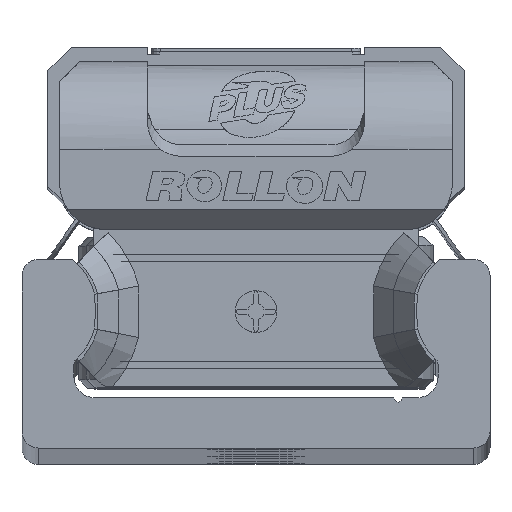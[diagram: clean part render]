
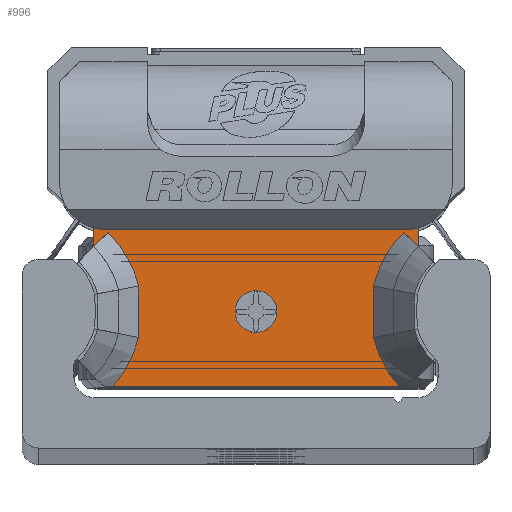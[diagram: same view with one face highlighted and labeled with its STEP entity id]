
A CAD part, top view. The second image highlights one B-rep face of the part: STEP entity #996.
In plain terms, the highlighted planar face has unit normal (0, 0, 1) as drawn and (0, 0, -1) by its records, which use the part's own axes.
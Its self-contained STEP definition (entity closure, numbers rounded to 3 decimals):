
#996 = ADVANCED_FACE( '', ( #2460, #2461 ), #2462, .F. );
#2460 = FACE_BOUND( '', #4641, .T. );
#2461 = FACE_OUTER_BOUND( '', #4642, .T. );
#2462 = PLANE( '', #4643 );
#4641 = EDGE_LOOP( '', ( #7400 ) );
#4642 = EDGE_LOOP( '', ( #7401, #7402, #7403, #7404, #7405, #7406, #7407, #7408, #7409, #7410, #7411, #7412, #7413, #7414 ) );
#4643 = AXIS2_PLACEMENT_3D( '', #7415, #7416, #7417 );
#7400 = ORIENTED_EDGE( '', *, *, #12608, .T. );
#7401 = ORIENTED_EDGE( '', *, *, #12609, .F. );
#7402 = ORIENTED_EDGE( '', *, *, #12610, .T. );
#7403 = ORIENTED_EDGE( '', *, *, #12100, .T. );
#7404 = ORIENTED_EDGE( '', *, *, #12611, .T. );
#7405 = ORIENTED_EDGE( '', *, *, #12612, .T. );
#7406 = ORIENTED_EDGE( '', *, *, #12613, .T. );
#7407 = ORIENTED_EDGE( '', *, *, #12614, .T. );
#7408 = ORIENTED_EDGE( '', *, *, #12615, .T. );
#7409 = ORIENTED_EDGE( '', *, *, #12412, .T. );
#7410 = ORIENTED_EDGE( '', *, *, #12616, .T. );
#7411 = ORIENTED_EDGE( '', *, *, #12617, .T. );
#7412 = ORIENTED_EDGE( '', *, *, #12618, .T. );
#7413 = ORIENTED_EDGE( '', *, *, #12619, .T. );
#7414 = ORIENTED_EDGE( '', *, *, #12620, .T. );
#7415 = CARTESIAN_POINT( '', ( 9.7, 4.89, -10.6 ) );
#7416 = DIRECTION( '', ( 0., 0., 1. ) );
#7417 = DIRECTION( '', ( 1., 0., 0. ) );
#12100 = EDGE_CURVE( '', #14302, #14306, #14308, .T. );
#12412 = EDGE_CURVE( '', #14852, #14830, #14853, .T. );
#12608 = EDGE_CURVE( '', #15187, #15187, #15188, .T. );
#12609 = EDGE_CURVE( '', #15189, #14971, #15190, .T. );
#12610 = EDGE_CURVE( '', #15189, #14302, #15191, .T. );
#12611 = EDGE_CURVE( '', #14306, #15192, #15193, .T. );
#12612 = EDGE_CURVE( '', #15192, #15194, #15195, .T. );
#12613 = EDGE_CURVE( '', #15194, #15196, #15197, .T. );
#12614 = EDGE_CURVE( '', #15196, #15198, #15199, .T. );
#12615 = EDGE_CURVE( '', #15198, #14852, #15200, .T. );
#12616 = EDGE_CURVE( '', #14830, #15201, #15202, .T. );
#12617 = EDGE_CURVE( '', #15201, #15203, #15204, .T. );
#12618 = EDGE_CURVE( '', #15203, #15205, #15206, .T. );
#12619 = EDGE_CURVE( '', #15205, #15207, #15208, .T. );
#12620 = EDGE_CURVE( '', #15207, #14971, #15209, .T. );
#14302 = VERTEX_POINT( '', #17544 );
#14306 = VERTEX_POINT( '', #17550 );
#14308 = LINE( '', #17553, #17554 );
#14830 = VERTEX_POINT( '', #18381 );
#14852 = VERTEX_POINT( '', #18414 );
#14853 = B_SPLINE_CURVE_WITH_KNOTS( '', 2, ( #18415, #18416, #18417 ), .UNSPECIFIED., .F., .F., ( 3, 3 ), ( 0., 1. ), .UNSPECIFIED. );
#14971 = VERTEX_POINT( '', #18598 );
#15187 = VERTEX_POINT( '', #18897 );
#15188 = CIRCLE( '', #18898, 1.25 );
#15189 = VERTEX_POINT( '', #18899 );
#15190 = LINE( '', #18900, #18901 );
#15191 = CIRCLE( '', #18902, 2.8 );
#15192 = VERTEX_POINT( '', #18903 );
#15193 = CIRCLE( '', #18904, 2.8 );
#15194 = VERTEX_POINT( '', #18905 );
#15195 = LINE( '', #18906, #18907 );
#15196 = VERTEX_POINT( '', #18908 );
#15197 = LINE( '', #18909, #18910 );
#15198 = VERTEX_POINT( '', #18911 );
#15199 = B_SPLINE_CURVE_WITH_KNOTS( '', 2, ( #18912, #18913, #18914, #18915, #18916 ), .UNSPECIFIED., .F., .F., ( 3, 2, 3 ), ( 0., 0.5, 1. ), .UNSPECIFIED. );
#15200 = B_SPLINE_CURVE_WITH_KNOTS( '', 2, ( #18917, #18918, #18919 ), .UNSPECIFIED., .F., .F., ( 3, 3 ), ( 0., 1. ), .UNSPECIFIED. );
#15201 = VERTEX_POINT( '', #18920 );
#15202 = LINE( '', #18921, #18922 );
#15203 = VERTEX_POINT( '', #18923 );
#15204 = B_SPLINE_CURVE_WITH_KNOTS( '', 2, ( #18924, #18925, #18926 ), .UNSPECIFIED., .F., .F., ( 3, 3 ), ( 0.1, 1. ), .UNSPECIFIED. );
#15205 = VERTEX_POINT( '', #18927 );
#15206 = B_SPLINE_CURVE_WITH_KNOTS( '', 2, ( #18928, #18929, #18930 ), .UNSPECIFIED., .F., .F., ( 3, 3 ), ( 0., 1. ), .UNSPECIFIED. );
#15207 = VERTEX_POINT( '', #18931 );
#15208 = B_SPLINE_CURVE_WITH_KNOTS( '', 2, ( #18932, #18933, #18934 ), .UNSPECIFIED., .F., .F., ( 3, 3 ), ( 0., 1. ), .UNSPECIFIED. );
#15209 = LINE( '', #18935, #18936 );
#17544 = CARTESIAN_POINT( '', ( -8.95, 4.51, -10.6 ) );
#17550 = CARTESIAN_POINT( '', ( 8.95, 4.51, -10.6 ) );
#17553 = CARTESIAN_POINT( '', ( 9.7, 4.51, -10.6 ) );
#17554 = VECTOR( '', #22083, 1000. );
#18381 = CARTESIAN_POINT( '', ( 8.59, -4.893, -10.6 ) );
#18414 = CARTESIAN_POINT( '', ( 7.031, -1.944, -10.6 ) );
#18415 = CARTESIAN_POINT( '', ( 7.031, -1.944, -10.6 ) );
#18416 = CARTESIAN_POINT( '', ( 7.429, -3.615, -10.6 ) );
#18417 = CARTESIAN_POINT( '', ( 8.588, -4.89, -10.6 ) );
#18598 = CARTESIAN_POINT( '', ( -9.7, 3.494, -10.6 ) );
#18897 = CARTESIAN_POINT( '', ( 1.25, -0.39, -10.6 ) );
#18898 = AXIS2_PLACEMENT_3D( '', #22714, #22715, #22716 );
#18899 = CARTESIAN_POINT( '', ( -9.7, 4.612, -10.6 ) );
#18900 = CARTESIAN_POINT( '', ( -9.7, 4.89, -10.6 ) );
#18901 = VECTOR( '', #22717, 1000. );
#18902 = AXIS2_PLACEMENT_3D( '', #22718, #22719, #22720 );
#18903 = CARTESIAN_POINT( '', ( 9.7, 4.612, -10.6 ) );
#18904 = AXIS2_PLACEMENT_3D( '', #22721, #22722, #22723 );
#18905 = CARTESIAN_POINT( '', ( 9.7, 3.497, -10.6 ) );
#18906 = CARTESIAN_POINT( '', ( 9.7, 4.89, -10.6 ) );
#18907 = VECTOR( '', #22724, 1000. );
#18908 = CARTESIAN_POINT( '', ( 8.853, 4.366, -10.6 ) );
#18909 = CARTESIAN_POINT( '', ( 9.7, 3.501, -10.6 ) );
#18910 = VECTOR( '', #22725, 1000. );
#18911 = CARTESIAN_POINT( '', ( 7.031, 1.144, -10.6 ) );
#18912 = CARTESIAN_POINT( '', ( 8.853, 4.366, -10.6 ) );
#18913 = CARTESIAN_POINT( '', ( 8.182, 3.708, -10.6 ) );
#18914 = CARTESIAN_POINT( '', ( 7.715, 2.883, -10.6 ) );
#18915 = CARTESIAN_POINT( '', ( 7.249, 2.058, -10.6 ) );
#18916 = CARTESIAN_POINT( '', ( 7.031, 1.144, -10.6 ) );
#18917 = CARTESIAN_POINT( '', ( 7.031, 1.144, -10.6 ) );
#18918 = CARTESIAN_POINT( '', ( 6.929, -0.4, -10.6 ) );
#18919 = CARTESIAN_POINT( '', ( 7.031, -1.944, -10.6 ) );
#18920 = CARTESIAN_POINT( '', ( -8.59, -4.893, -10.6 ) );
#18921 = CARTESIAN_POINT( '', ( 9.7, -4.89, -10.6 ) );
#18922 = VECTOR( '', #22726, 1000. );
#18923 = CARTESIAN_POINT( '', ( -7.031, -1.944, -10.6 ) );
#18924 = CARTESIAN_POINT( '', ( -8.587, -4.89, -10.6 ) );
#18925 = CARTESIAN_POINT( '', ( -7.432, -3.63, -10.6 ) );
#18926 = CARTESIAN_POINT( '', ( -7.031, -1.944, -10.6 ) );
#18927 = CARTESIAN_POINT( '', ( -7.031, 1.144, -10.6 ) );
#18928 = CARTESIAN_POINT( '', ( -7.031, -1.944, -10.6 ) );
#18929 = CARTESIAN_POINT( '', ( -6.929, -0.4, -10.6 ) );
#18930 = CARTESIAN_POINT( '', ( -7.031, 1.144, -10.6 ) );
#18931 = CARTESIAN_POINT( '', ( -8.853, 4.366, -10.6 ) );
#18932 = CARTESIAN_POINT( '', ( -7.031, 1.144, -10.6 ) );
#18933 = CARTESIAN_POINT( '', ( -7.477, 3.018, -10.6 ) );
#18934 = CARTESIAN_POINT( '', ( -8.853, 4.366, -10.6 ) );
#18935 = CARTESIAN_POINT( '', ( -8.853, 4.366, -10.6 ) );
#18936 = VECTOR( '', #22727, 1000. );
#22083 = DIRECTION( '', ( 1., 0., 0. ) );
#22714 = CARTESIAN_POINT( '', ( 0., -0.39, -10.6 ) );
#22715 = DIRECTION( '', ( 0., 0., 1. ) );
#22716 = DIRECTION( '', ( 1., 0., 0. ) );
#22717 = DIRECTION( '', ( 0., -1., 0. ) );
#22718 = CARTESIAN_POINT( '', ( -8.95, 7.31, -10.6 ) );
#22719 = DIRECTION( '', ( 0., 0., 1. ) );
#22720 = DIRECTION( '', ( 1., 0., 0. ) );
#22721 = CARTESIAN_POINT( '', ( 8.95, 7.31, -10.6 ) );
#22722 = DIRECTION( '', ( 0., 0., 1. ) );
#22723 = DIRECTION( '', ( 1., 0., 0. ) );
#22724 = DIRECTION( '', ( 0., -1., 0. ) );
#22725 = DIRECTION( '', ( -0.7, 0.714, 0. ) );
#22726 = DIRECTION( '', ( -1., 0., 0. ) );
#22727 = DIRECTION( '', ( -0.7, -0.714, 0. ) );
